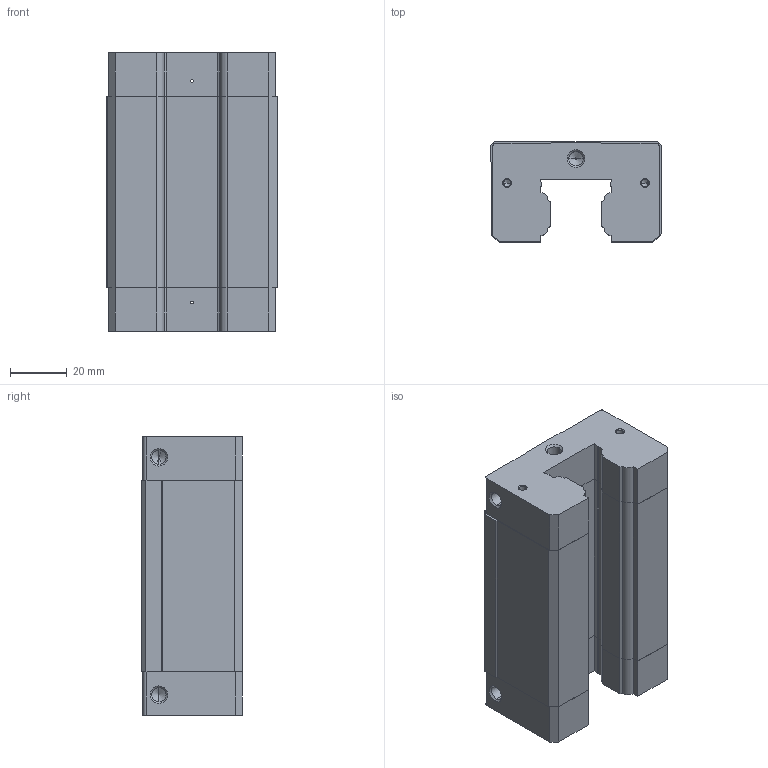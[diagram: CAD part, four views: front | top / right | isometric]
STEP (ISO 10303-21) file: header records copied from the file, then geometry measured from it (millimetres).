
FILE_DESCRIPTION (( 'STEP AP214' ), '1' );
FILE_NAME ('RUSIZE_12301167610.step', '2006-12-30T16:06:14', ( 'SysAdmin' ), ( 'SolidWorks' ), 'SwSTEP 2.0', 'SolidWorks 2007', '' );
FILE_SCHEMA (( 'AUTOMOTIVE_DESIGN' ));
Length unit declared in the file: millimetre
Products named in the file (1): RUSIZE_12301167610
Bounding box: 60 x 35.35 x 97.7 mm (x, y, z)
Volume: 154654.2 mm3; surface area: 34952.1 mm2
Topology: 3 solids, 3 shells, 194 faces, 502 edges, 303 vertices
Faces by surface type: plane 86, cone 56, cylinder 52
Entity records: 7701 total; most frequent: CARTESIAN_POINT 1000, DIRECTION 996, ORIENTED_EDGE 952, EDGE_CURVE 476, VECTOR 342, LINE 342, AXIS2_PLACEMENT_3D 327, VERTEX_POINT 303
